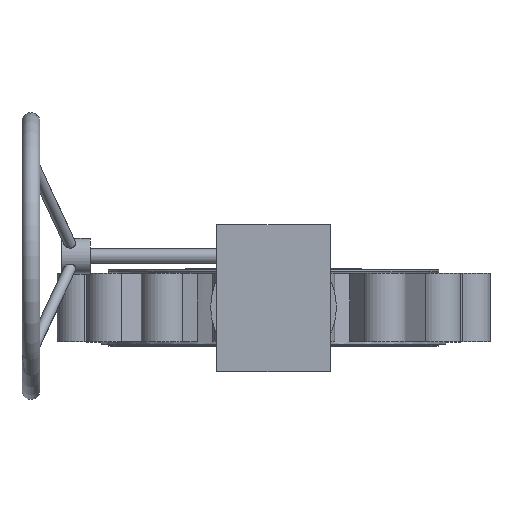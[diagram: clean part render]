
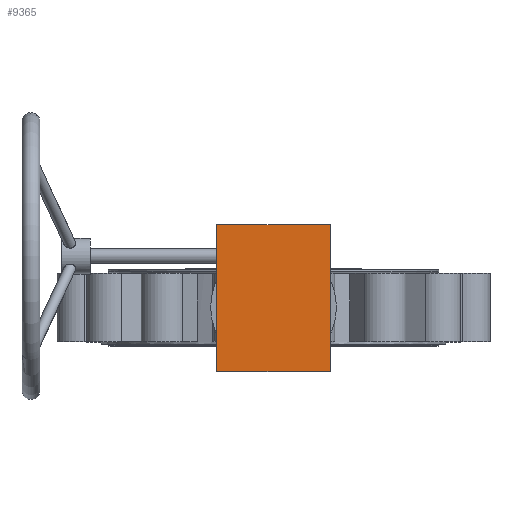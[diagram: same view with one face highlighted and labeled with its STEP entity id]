
A CAD part, top view. The second image highlights one B-rep face of the part: STEP entity #9365.
In plain terms, the highlighted planar face has unit normal (0, 0, 1) as drawn and (0, -1, 0) by its records, which use the part's own axes.
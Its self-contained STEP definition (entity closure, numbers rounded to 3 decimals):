
#188 = LINE ( 'NONE', #5370, #1556 ) ;
#190 = ORIENTED_EDGE ( 'NONE', *, *, #2145, .T. ) ;
#275 = DIRECTION ( 'NONE',  ( 0., 0., -1. ) ) ;
#415 = VECTOR ( 'NONE', #4446, 1000. ) ;
#428 = ORIENTED_EDGE ( 'NONE', *, *, #3195, .T. ) ;
#526 = CARTESIAN_POINT ( 'NONE',  ( -78.945, 2.5, 114.518 ) ) ;
#902 = CARTESIAN_POINT ( 'NONE',  ( 78.945, 2.5, 114.518 ) ) ;
#969 = ORIENTED_EDGE ( 'NONE', *, *, #6731, .T. ) ;
#1556 = VECTOR ( 'NONE', #6224, 1000. ) ;
#2116 = DIRECTION ( 'NONE',  ( 0., 0., -1. ) ) ;
#2145 = EDGE_CURVE ( 'NONE', #7330, #5534, #7582, .T. ) ;
#2590 = VECTOR ( 'NONE', #7643, 1000. ) ;
#2667 = CARTESIAN_POINT ( 'NONE',  ( -78.945, 2.5, -89.595 ) ) ;
#3160 = LINE ( 'NONE', #2667, #415 ) ;
#3195 = EDGE_CURVE ( 'NONE', #5534, #3236, #188, .T. ) ;
#3209 = FACE_OUTER_BOUND ( 'NONE', #8044, .T. ) ;
#3236 = VERTEX_POINT ( 'NONE', #526 ) ;
#4062 = VECTOR ( 'NONE', #2116, 1000. ) ;
#4446 = DIRECTION ( 'NONE',  ( 1., 0., 0. ) ) ;
#4913 = VERTEX_POINT ( 'NONE', #10148 ) ;
#5370 = CARTESIAN_POINT ( 'NONE',  ( -78.945, 2.5, 114.518 ) ) ;
#5534 = VERTEX_POINT ( 'NONE', #902 ) ;
#5985 = CARTESIAN_POINT ( 'NONE',  ( 78.945, 2.5, 114.518 ) ) ;
#6224 = DIRECTION ( 'NONE',  ( -1., 0., 0. ) ) ;
#6665 = CARTESIAN_POINT ( 'NONE',  ( 0., 2.5, 0. ) ) ;
#6731 = EDGE_CURVE ( 'NONE', #3236, #4913, #8781, .T. ) ;
#6974 = CARTESIAN_POINT ( 'NONE',  ( -78.945, 2.5, 114.518 ) ) ;
#7330 = VERTEX_POINT ( 'NONE', #9791 ) ;
#7357 = PLANE ( 'NONE',  #8033 ) ;
#7582 = LINE ( 'NONE', #5985, #2590 ) ;
#7643 = DIRECTION ( 'NONE',  ( 0., 0., 1. ) ) ;
#8033 = AXIS2_PLACEMENT_3D ( 'NONE', #6665, #9848, #275 ) ;
#8044 = EDGE_LOOP ( 'NONE', ( #8282, #190, #428, #969 ) ) ;
#8282 = ORIENTED_EDGE ( 'NONE', *, *, #8894, .T. ) ;
#8781 = LINE ( 'NONE', #6974, #4062 ) ;
#8894 = EDGE_CURVE ( 'NONE', #4913, #7330, #3160, .T. ) ;
#9365 = ADVANCED_FACE ( 'NONE', ( #3209 ), #7357, .T. ) ;
#9791 = CARTESIAN_POINT ( 'NONE',  ( 78.945, 2.5, -89.595 ) ) ;
#9848 = DIRECTION ( 'NONE',  ( 0., -1., 0. ) ) ;
#10148 = CARTESIAN_POINT ( 'NONE',  ( -78.945, 2.5, -89.595 ) ) ;
